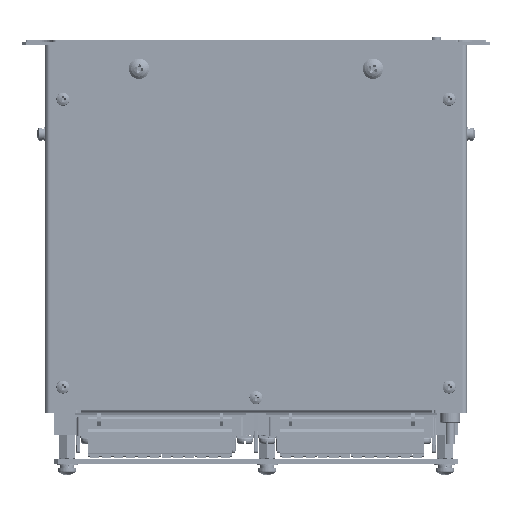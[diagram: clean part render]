
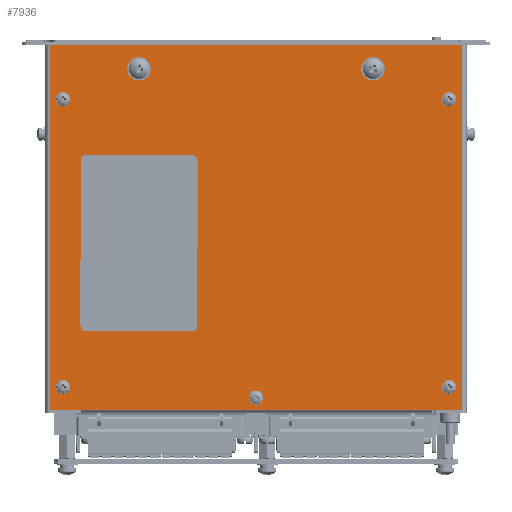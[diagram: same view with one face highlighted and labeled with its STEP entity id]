
A CAD part, left-side view. The second image highlights one B-rep face of the part: STEP entity #7936.
In plain terms, the highlighted planar face has unit normal (-1, 0, 0) as drawn and (0, 0, 1) by its records, which use the part's own axes.
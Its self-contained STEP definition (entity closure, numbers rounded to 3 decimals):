
#7936=ADVANCED_FACE('',(#274279,#274281,#274283,#274285,#274287,#274289,#274291,
#274293),#274295,.T.);
#274279=FACE_BOUND('',#274280,.T.);
#274280=EDGE_LOOP('',(#500216,#500217,#500218,#500219));
#274281=FACE_BOUND('',#274282,.T.);
#274282=EDGE_LOOP('',(#500220));
#274283=FACE_BOUND('',#274284,.T.);
#274284=EDGE_LOOP('',(#500221));
#274285=FACE_BOUND('',#274286,.T.);
#274286=EDGE_LOOP('',(#500222));
#274287=FACE_BOUND('',#274288,.T.);
#274288=EDGE_LOOP('',(#500223));
#274289=FACE_BOUND('',#274290,.T.);
#274290=EDGE_LOOP('',(#500224));
#274291=FACE_BOUND('',#274292,.T.);
#274292=EDGE_LOOP('',(#500225));
#274293=FACE_BOUND('',#274294,.T.);
#274294=EDGE_LOOP('',(#500226));
#274295=PLANE('',#274296);
#274296=AXIS2_PLACEMENT_3D('',#274297,#274298,#274299);
#274297=CARTESIAN_POINT('',(0.,0.,1.));
#274298=DIRECTION('',(0.,0.,1.));
#274299=DIRECTION('',(1.,0.,0.));
#500216=ORIENTED_EDGE('',*,*,#684634,.T.);
#500217=ORIENTED_EDGE('',*,*,#684635,.T.);
#500218=ORIENTED_EDGE('',*,*,#684636,.T.);
#500219=ORIENTED_EDGE('',*,*,#684637,.T.);
#500220=ORIENTED_EDGE('',*,*,#684638,.T.);
#500221=ORIENTED_EDGE('',*,*,#684639,.T.);
#500222=ORIENTED_EDGE('',*,*,#684640,.T.);
#500223=ORIENTED_EDGE('',*,*,#684641,.T.);
#500224=ORIENTED_EDGE('',*,*,#684642,.T.);
#500225=ORIENTED_EDGE('',*,*,#684643,.T.);
#500226=ORIENTED_EDGE('',*,*,#684644,.T.);
#684634=EDGE_CURVE('',#772674,#772675,#772676,.T.);
#684635=EDGE_CURVE('',#772675,#772677,#772678,.T.);
#684636=EDGE_CURVE('',#772677,#772679,#772680,.T.);
#684637=EDGE_CURVE('',#772679,#772674,#772681,.T.);
#684638=EDGE_CURVE('',#772682,#772682,#772683,.F.);
#684639=EDGE_CURVE('',#772684,#772684,#772685,.F.);
#684640=EDGE_CURVE('',#772686,#772686,#772687,.F.);
#684641=EDGE_CURVE('',#772688,#772688,#772689,.F.);
#684642=EDGE_CURVE('',#772690,#772690,#772691,.F.);
#684643=EDGE_CURVE('',#772692,#772692,#772693,.F.);
#684644=EDGE_CURVE('',#772694,#772694,#772695,.F.);
#772674=VERTEX_POINT('',#918290);
#772675=VERTEX_POINT('',#918291);
#772676=LINE('',#918292,#918293);
#772677=VERTEX_POINT('',#918295);
#772678=LINE('',#918296,#918297);
#772679=VERTEX_POINT('',#918299);
#772680=LINE('',#918300,#918301);
#772681=LINE('',#918303,#918304);
#772682=VERTEX_POINT('',#918306);
#772683=CIRCLE('',#918307,1.75);
#772684=VERTEX_POINT('',#918311);
#772685=CIRCLE('',#918312,2.25);
#772686=VERTEX_POINT('',#918316);
#772687=CIRCLE('',#918317,2.25);
#772688=VERTEX_POINT('',#918321);
#772689=CIRCLE('',#918322,1.75);
#772690=VERTEX_POINT('',#918326);
#772691=CIRCLE('',#918327,1.75);
#772692=VERTEX_POINT('',#918331);
#772693=CIRCLE('',#918332,1.75);
#772694=VERTEX_POINT('',#918336);
#772695=CIRCLE('',#918337,1.75);
#918290=CARTESIAN_POINT('',(78.,88.,1.));
#918291=CARTESIAN_POINT('',(-78.,88.,1.));
#918292=CARTESIAN_POINT('',(78.,88.,1.));
#918293=VECTOR('',#918294,1.);
#918294=DIRECTION('',(-1.,0.,0.));
#918295=CARTESIAN_POINT('',(-78.,-88.,1.));
#918296=CARTESIAN_POINT('',(-78.,88.,1.));
#918297=VECTOR('',#918298,1.);
#918298=DIRECTION('',(0.,-1.,0.));
#918299=CARTESIAN_POINT('',(78.,-88.,1.));
#918300=CARTESIAN_POINT('',(-78.,-88.,1.));
#918301=VECTOR('',#918302,1.);
#918302=DIRECTION('',(1.,0.,0.));
#918303=CARTESIAN_POINT('',(78.,-88.,1.));
#918304=VECTOR('',#918305,1.);
#918305=DIRECTION('',(0.,1.,0.));
#918306=CARTESIAN_POINT('',(74.25,0.,1.));
#918307=AXIS2_PLACEMENT_3D('',#918308,#918309,#918310);
#918308=CARTESIAN_POINT('',(72.5,0.,1.));
#918309=DIRECTION('',(0.,0.,1.));
#918310=DIRECTION('',(1.,0.,0.));
#918311=CARTESIAN_POINT('',(-65.75,50.,1.));
#918312=AXIS2_PLACEMENT_3D('',#918313,#918314,#918315);
#918313=CARTESIAN_POINT('',(-68.,50.,1.));
#918314=DIRECTION('',(0.,0.,1.));
#918315=DIRECTION('',(1.,0.,0.));
#918316=CARTESIAN_POINT('',(-65.75,-50.,1.));
#918317=AXIS2_PLACEMENT_3D('',#918318,#918319,#918320);
#918318=CARTESIAN_POINT('',(-68.,-50.,1.));
#918319=DIRECTION('',(0.,0.,1.));
#918320=DIRECTION('',(1.,0.,0.));
#918321=CARTESIAN_POINT('',(-53.25,82.5,1.));
#918322=AXIS2_PLACEMENT_3D('',#918323,#918324,#918325);
#918323=CARTESIAN_POINT('',(-55.,82.5,1.));
#918324=DIRECTION('',(0.,0.,1.));
#918325=DIRECTION('',(1.,0.,0.));
#918326=CARTESIAN_POINT('',(69.75,82.5,1.));
#918327=AXIS2_PLACEMENT_3D('',#918328,#918329,#918330);
#918328=CARTESIAN_POINT('',(68.,82.5,1.));
#918329=DIRECTION('',(0.,0.,1.));
#918330=DIRECTION('',(1.,0.,0.));
#918331=CARTESIAN_POINT('',(-53.25,-82.5,1.));
#918332=AXIS2_PLACEMENT_3D('',#918333,#918334,#918335);
#918333=CARTESIAN_POINT('',(-55.,-82.5,1.));
#918334=DIRECTION('',(0.,0.,1.));
#918335=DIRECTION('',(1.,0.,0.));
#918336=CARTESIAN_POINT('',(69.75,-82.5,1.));
#918337=AXIS2_PLACEMENT_3D('',#918338,#918339,#918340);
#918338=CARTESIAN_POINT('',(68.,-82.5,1.));
#918339=DIRECTION('',(0.,0.,1.));
#918340=DIRECTION('',(1.,0.,0.));
